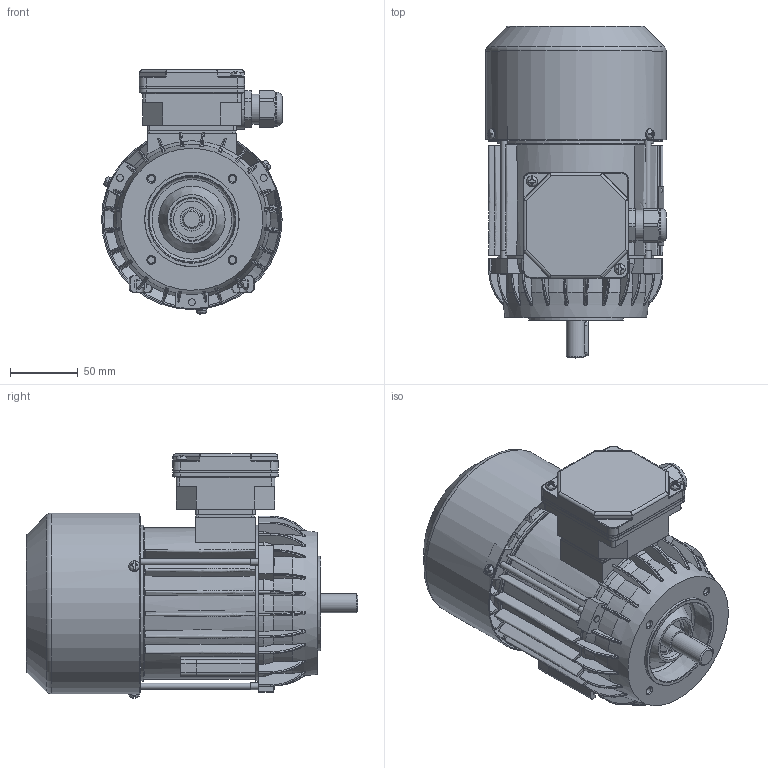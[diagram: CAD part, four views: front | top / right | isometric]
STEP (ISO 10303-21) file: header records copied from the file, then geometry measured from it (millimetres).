
FILE_DESCRIPTION( ( 'Unknown' ), '1' );
FILE_NAME( 'G:/Poczta Tk-1/STP/w.m.71/Sh71/SKh71-.B2.stp', 'Unknown', ( 'K. Szlosek' ), ( 'BESEL S.A.' ), 'PSStep 17.0.49', 'Unknown', ' ' );
FILE_SCHEMA( ( 'AUTOMOTIVE_DESIGN { 1 0 10303 214 1 1 1 1 }' ) );
Length unit declared in the file: millimetre
Products named in the file (28): Assem1; K4-2820 Uszczelka nr 2 Sh71,80; Wkręt samogwintujący M4x16; K3-6469 Tarcza łożyskowa P S(E,M)h71-B,C; Wpust A5x5x25; Wkręt samogwintujący M4x8; K1-1194 Kadłub z zamkami Sh71-.B; K3-3984 Przewietrznik Sh71; K4-2320 Uszczelka nr 1 Sh71,80; K3-2975 Osłona przewietrznika Sh71-.B,C; K2-0860 Pokrywka skrzynki zaciskowej; K3-4502 wał standard Sh71-B; Nitokołek A 2x6; Łożysko 6203; Śruba ściągająca E_M5x110; Tabliczka znamionowa 32x44; Dławnica M20x1,5; K1-1245 Tarcza kołnierzowa B14_2 w.m. 71; K2-0859 Podstawa skrzynki 6-cio zaciskowej
Assembly tree (43 placements, depth 2):
  Assem1
    K4-2820 Uszczelka nr 2 Sh71,80
    Wkręt samogwintujący M4x16  x2
    K3-6469 Tarcza łożyskowa P S(E,M)h71-B,C
    Wpust A5x5x25
    Wkręt samogwintujący M4x8  x3
    K1-1194 Kadłub z zamkami Sh71-.B
    K3-3984 Przewietrznik Sh71
    K4-2320 Uszczelka nr 1 Sh71,80
    K3-2975 Osłona przewietrznika Sh71-.B,C
    K2-0860 Pokrywka skrzynki zaciskowej
    K3-4502 wał standard Sh71-B
    Nitokołek A 2x6  x2
    Łożysko 6203  x2
    Łożysko 6203  x2
    Łożysko 6203  x2
    Łożysko 6203  x2
    Łożysko 6203  x2
    Łożysko 6203  x2
    Łożysko 6203  x2
    Łożysko 6203  x2
    Łożysko 6203  x2
    Łożysko 6203  x2
    Śruba ściągająca E_M5x110  x3
    Tabliczka znamionowa 32x44
    Dławnica M20x1,5
    K1-1245 Tarcza kołnierzowa B14_2 w.m. 71
    K2-0859 Podstawa skrzynki 6-cio zaciskowej
Bounding box: 133.8 x 245.5 x 180.57 mm (x, y, z)
Volume: 588822.6 mm3; surface area: 427801.1 mm2
Topology: 43 solids, 59 shells, 2524 faces, 6921 edges, 4453 vertices
Faces by surface type: plane 980, cylinder 726, bspline 401, torus 198, cone 179, sphere 40
Full cylindrical faces by diameter (mm): 2 x2, 2.4 x2, 3.7 x7, 3.8 x4, 4 x5, 4.5 x1, 4.6 x3, 4.8 x4, 4.917 x4, 5 x10, 5.5 x3, 7 x1, 8 x9, 14 x1, 15.9 x1, 16.1 x1, 16.5 x1, 17 x4, 17.4 x2, 18.376 x1, 18.38 x1, 20 x1, 22 x2, 22.3 x1, 22.5 x1, 23 x1, 23.1 x1, 24.498 x4, 25 x1, 27 x1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
Entity records: 156580 total; most frequent: CARTESIAN_POINT 80988, ORIENTED_EDGE 12382, DIRECTION 10741, EDGE_CURVE 6191, VERTEX_POINT 4127, AXIS2_PLACEMENT_3D 4122, EDGE_LOOP 2745, LINE 2497
